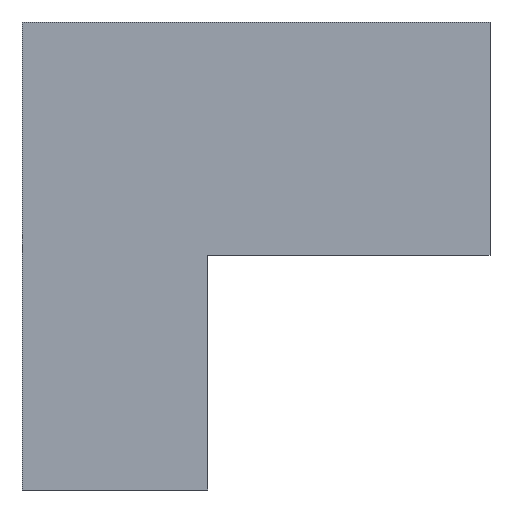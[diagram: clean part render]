
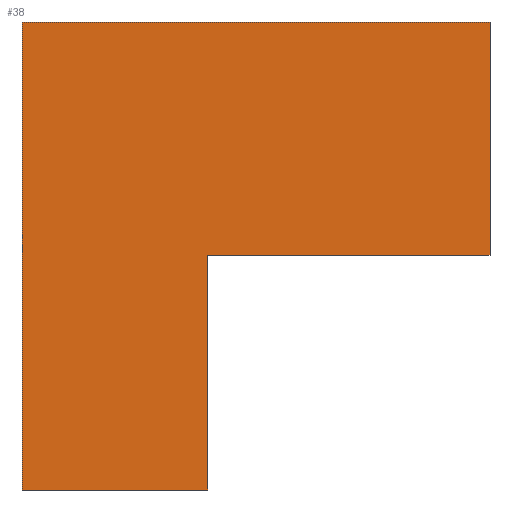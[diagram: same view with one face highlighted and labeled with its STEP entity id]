
A CAD part, left-side view. The second image highlights one B-rep face of the part: STEP entity #38.
In plain terms, the highlighted planar face has unit normal (-1, 0, 0).
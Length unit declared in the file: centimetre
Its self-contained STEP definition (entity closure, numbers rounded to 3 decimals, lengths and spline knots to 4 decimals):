
#8 = CARTESIAN_POINT ( 'NONE',  ( 0., 1000., 1000. ) ) ;
#13 = CARTESIAN_POINT ( 'NONE',  ( 0., 0., 501.3899 ) ) ;
#29 = LINE ( 'NONE', #36, #384 ) ;
#30 = VERTEX_POINT ( 'NONE', #345 ) ;
#36 = CARTESIAN_POINT ( 'NONE',  ( 0., 0., 1000. ) ) ;
#38 = ADVANCED_FACE ( 'NONE', ( #417 ), #161, .F. ) ;
#46 = AXIS2_PLACEMENT_3D ( 'NONE', #8, #359, #158 ) ;
#47 = EDGE_CURVE ( 'NONE', #454, #344, #440, .T. ) ;
#51 = ORIENTED_EDGE ( 'NONE', *, *, #47, .F. ) ;
#61 = VERTEX_POINT ( 'NONE', #13 ) ;
#67 = CARTESIAN_POINT ( 'NONE',  ( 0., 1000., 1000. ) ) ;
#86 = LINE ( 'NONE', #124, #88 ) ;
#88 = VECTOR ( 'NONE', #391, 100. ) ;
#89 = EDGE_CURVE ( 'NONE', #30, #366, #319, .T. ) ;
#90 = ORIENTED_EDGE ( 'NONE', *, *, #420, .F. ) ;
#94 = VECTOR ( 'NONE', #343, 100. ) ;
#124 = CARTESIAN_POINT ( 'NONE',  ( 0., 602.9201, 501.3899 ) ) ;
#128 = DIRECTION ( 'NONE',  ( 0., -1., 0. ) ) ;
#131 = DIRECTION ( 'NONE',  ( 0., 0., -1. ) ) ;
#135 = DIRECTION ( 'NONE',  ( 0., -1., 0. ) ) ;
#158 = DIRECTION ( 'NONE',  ( 0., 0., -1. ) ) ;
#161 = PLANE ( 'NONE',  #46 ) ;
#193 = CARTESIAN_POINT ( 'NONE',  ( 0., 1000., 0. ) ) ;
#209 = VERTEX_POINT ( 'NONE', #193 ) ;
#211 = LINE ( 'NONE', #405, #377 ) ;
#245 = EDGE_CURVE ( 'NONE', #209, #366, #211, .T. ) ;
#279 = CARTESIAN_POINT ( 'NONE',  ( 0., 1000., 1000. ) ) ;
#285 = ORIENTED_EDGE ( 'NONE', *, *, #307, .F. ) ;
#296 = ORIENTED_EDGE ( 'NONE', *, *, #469, .T. ) ;
#307 = EDGE_CURVE ( 'NONE', #61, #30, #86, .T. ) ;
#319 = LINE ( 'NONE', #456, #409 ) ;
#339 = CARTESIAN_POINT ( 'NONE',  ( 0., 1000., 1000. ) ) ;
#343 = DIRECTION ( 'NONE',  ( 0., 0., -1. ) ) ;
#344 = VERTEX_POINT ( 'NONE', #497 ) ;
#345 = CARTESIAN_POINT ( 'NONE',  ( 0., 602.9201, 501.3899 ) ) ;
#359 = DIRECTION ( 'NONE',  ( 1., 0., 0. ) ) ;
#366 = VERTEX_POINT ( 'NONE', #453 ) ;
#376 = ORIENTED_EDGE ( 'NONE', *, *, #245, .T. ) ;
#377 = VECTOR ( 'NONE', #135, 100. ) ;
#384 = VECTOR ( 'NONE', #462, 100. ) ;
#391 = DIRECTION ( 'NONE',  ( 0., 1., 0. ) ) ;
#405 = CARTESIAN_POINT ( 'NONE',  ( 0., 1000., 0. ) ) ;
#409 = VECTOR ( 'NONE', #131, 100. ) ;
#413 = LINE ( 'NONE', #67, #94 ) ;
#417 = FACE_OUTER_BOUND ( 'NONE', #435, .T. ) ;
#420 = EDGE_CURVE ( 'NONE', #344, #61, #29, .T. ) ;
#435 = EDGE_LOOP ( 'NONE', ( #376, #494, #285, #90, #51, #296 ) ) ;
#440 = LINE ( 'NONE', #279, #501 ) ;
#453 = CARTESIAN_POINT ( 'NONE',  ( 0., 602.9201, 0. ) ) ;
#454 = VERTEX_POINT ( 'NONE', #339 ) ;
#456 = CARTESIAN_POINT ( 'NONE',  ( 0., 602.9201, 501.3899 ) ) ;
#462 = DIRECTION ( 'NONE',  ( 0., 0., -1. ) ) ;
#469 = EDGE_CURVE ( 'NONE', #454, #209, #413, .T. ) ;
#494 = ORIENTED_EDGE ( 'NONE', *, *, #89, .F. ) ;
#497 = CARTESIAN_POINT ( 'NONE',  ( 0., 0., 1000. ) ) ;
#501 = VECTOR ( 'NONE', #128, 100. ) ;
